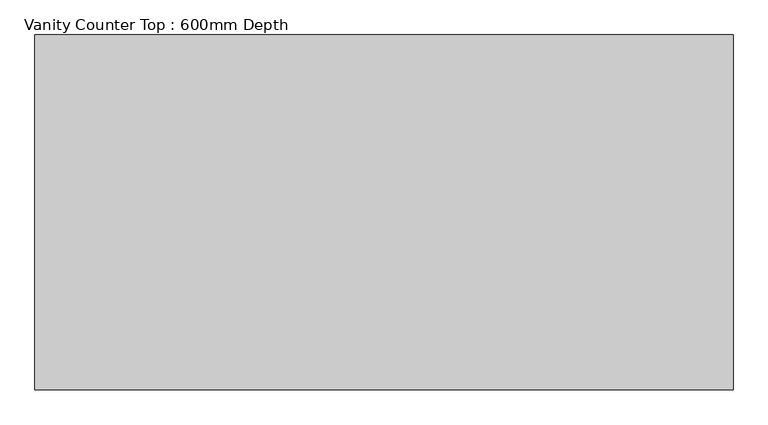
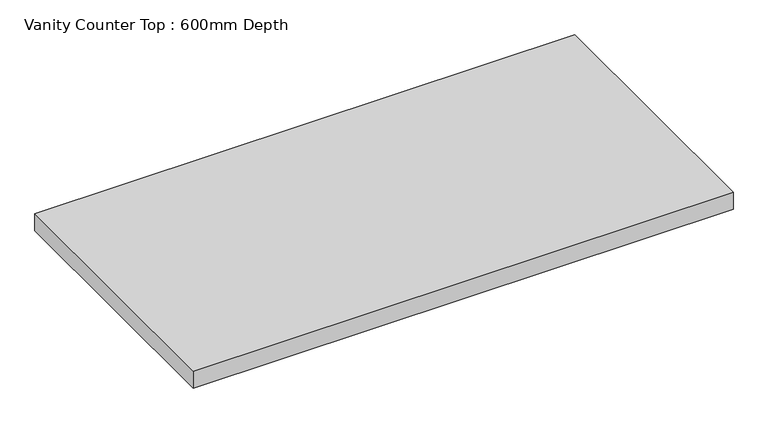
"""IFC4 building model written with IfcOpenShell, lengths in millimetres: furniture geometry, Vanity Counter Top : 600mm Depth."""

from ifc_helpers import new_model, si_unit, frame, origin, place, context, project, spatial, polyline, outline, extrude, source, transform, mapped, element, save


def vanity_counter_top_600mm_depth_447de73f(model_context):
    return source(origin(), model_context, "Body", "SweptSolid", [
        extrude(outline(polyline([(-0.4622951, 0.0), (-0.4622951, -610.0), (-1200.4622951, -610.0), (-1200.4622951, 0.0), (-0.4622951, 0.0)])), frame((0.0, 0.0, 860.0), z_axis=(0.0, 0.0, 1.0), x_axis=(1.0, 0.0, 0.0)), (0.0, 0.0, 1.0), 40.0),
    ])


if __name__ == "__main__":
    model = new_model("IFC4")
    model_context = context("Model", 3, world=origin())
    ifc_project = project(units=[si_unit("LENGTHUNIT", "METRE", prefix="MILLI")], contexts=[model_context])
    site = spatial("IfcSite", under=ifc_project)
    building = spatial("IfcBuilding", under=site)
    placement = place(None, origin())
    vanity_counter_top_600mm_depth_shape = vanity_counter_top_600mm_depth_447de73f(model_context)
    element("IfcFurniture", 1, ObjectType="Vanity Counter Top : 600mm Depth", at=placement, inside=building, context=model_context, shape_type="MappedRepresentation", body=[
        mapped(vanity_counter_top_600mm_depth_shape, transform((0.0, 0.0, 0.0), x_axis=(1.0, 0.0, 0.0), y_axis=(0.0, 1.0, 0.0), z_axis=(0.0, 0.0, 1.0))),
    ])
    save(model, "model.ifc")
